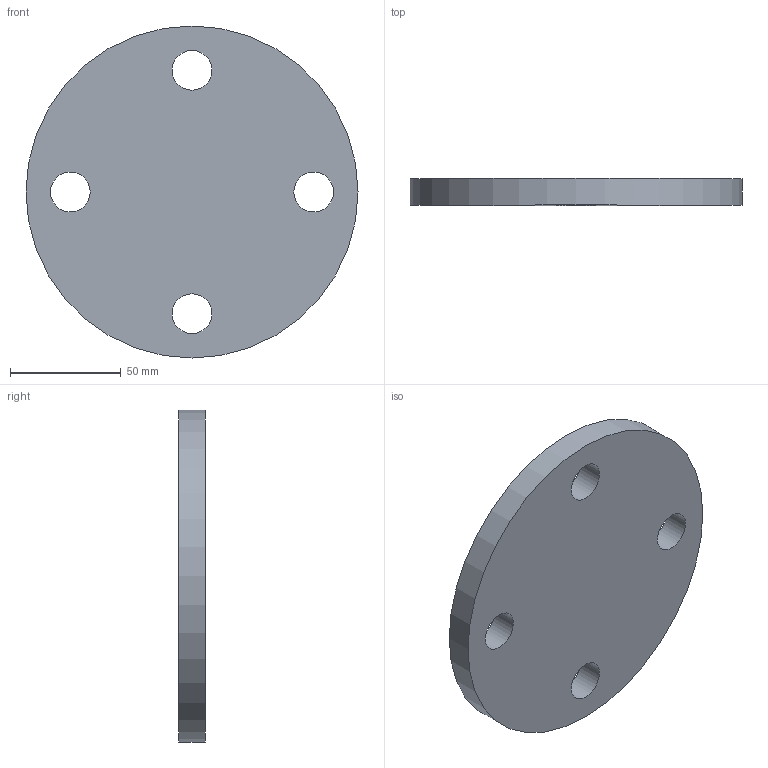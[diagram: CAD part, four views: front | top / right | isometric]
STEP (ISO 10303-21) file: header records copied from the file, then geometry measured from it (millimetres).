
FILE_DESCRIPTION(/* description */ (''),/* implementation_level */ '2;1');
FILE_NAME(/* name */ 'Z:\Geberit\Export\NewStep\361748.stp',/* time_stamp */ '2014-04-01T21:07:35+02:00',/* author */ ('nelson'),/* organization */ (''),/* preprocessor_version */ 'ST-DEVELOPER v15.2',/* originating_system */ 'Autodesk Inventor 2014',/* authorisation */ '');
FILE_SCHEMA (('AUTOMOTIVE_DESIGN { 1 0 10303 214 3 1 1 }'));
Length unit declared in the file: millimetre
Products named in the file (1): 361748
Bounding box: 150 x 12 x 150 mm (x, y, z)
Volume: 199843 mm3; surface area: 41676.4 mm2
Topology: 1 solids, 1 shells, 7 faces, 15 edges, 10 vertices
Faces by surface type: cylinder 5, plane 2
Full cylindrical faces by diameter (mm): 18 x4, 150 x1
Entity records: 211 total; most frequent: DIRECTION 36, CARTESIAN_POINT 28, EDGE_LOOP 20, ORIENTED_EDGE 20, AXIS2_PLACEMENT_3D 18, FACE_BOUND 15, CIRCLE 10, VERTEX_POINT 10
